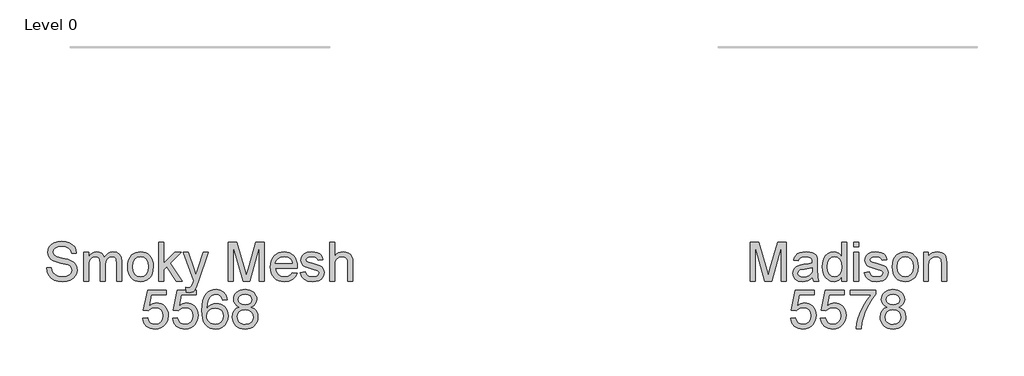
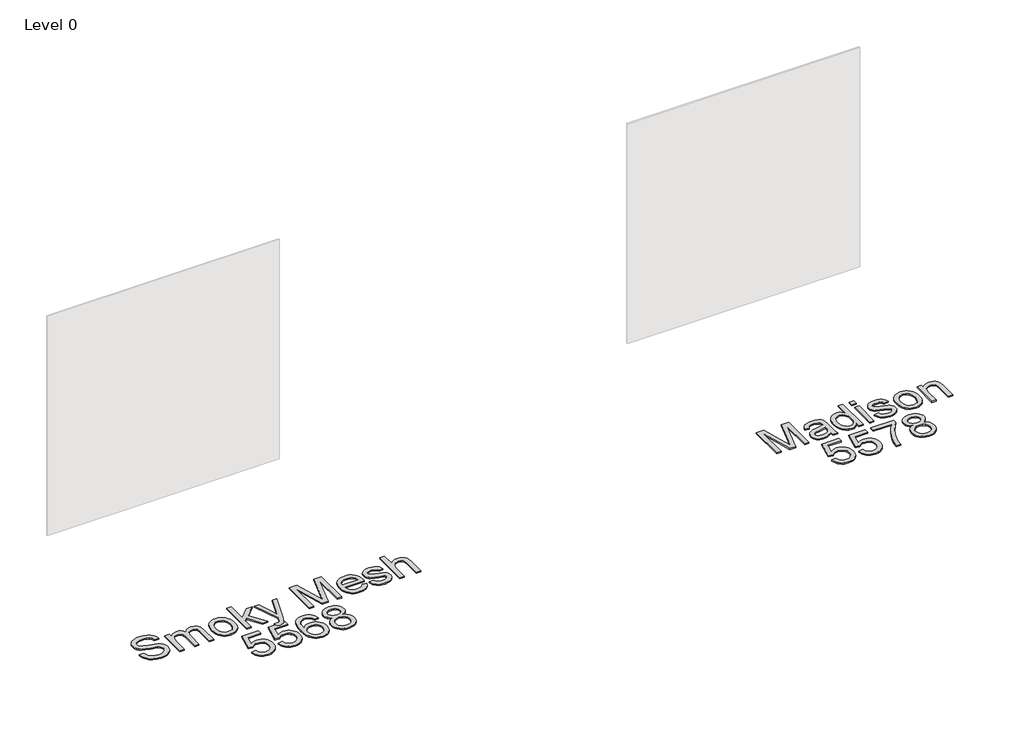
# One storey, part 2 of 8: 2 proxies.
"""IFC4 building model written with IfcOpenShell, lengths in millimetres."""

from ifc_helpers import new_model, si_unit, origin, origin_with_axes, place, context, project, spatial, polyline, outline, extrude, element, save

model = new_model("IFC4")

# Units and contexts
model_context = context("Model", 3, world=origin())
ifc_project = project(units=[si_unit("LENGTHUNIT", "METRE", prefix="MILLI")], contexts=[model_context])

# Site, building, storey
site = spatial("IfcSite", under=ifc_project)
building = spatial("IfcBuilding", under=site)
storey = spatial("IfcBuildingStorey", under=building, Name="Level 0", Elevation=0.0)

# Proxies
placement = place(None, origin())
element("IfcBuildingElementProxy", 1, Name="300mm Arial", ObjectType="300mm Arial", at=placement, inside=storey, context=model_context, shape_type="SweptSolid", body=[
    extrude(outline(polyline([(-10634.9437752, -11899.2649241), (-10597.2726589, -11899.2649241), (-10592.9500454, -11920.1698185), (-10585.132553, -11936.9728286), (-10572.9372649, -11950.308551), (-10555.4812642, -11960.8115819), (-10534.1441085, -11967.6265959), (-10510.3053552, -11969.8982672), (-10489.3176874, -11968.1784189), (-10470.9419817, -11963.0188739), (-10456.051958, -11954.8518936), (-10445.5213359, -11944.1097394), (-10439.2581449, -11931.7764955), (-10437.1704146, -11918.8362463), (-10438.7339131, -11906.2270909), (-10443.4244085, -11895.3285868), (-10452.9525522, -11886.0303694), (-10469.0289954, -11878.222074), (-10523.8802008, -11863.837888), (-10559.8866511, -11854.3189414), (-10582.9252611, -11845.2598472), (-10601.6780458, -11832.5863125), (-10614.9677828, -11817.2272392), (-10622.8864428, -11799.5137211), (-10625.5259961, -11779.7768521), (-10622.2610434, -11757.7131294), (-10612.4661853, -11737.1393289), (-10596.3989391, -11719.7017223), (-10574.3168224, -11707.0465817), (-10547.8109246, -11699.3486509), (-10518.4723355, -11696.782674), (-10486.6873311, -11699.4682126), (-10458.8754523, -11707.5248283), (-10436.0299804, -11720.7869742), (-10419.1441968, -11739.0891034), (-10408.4572248, -11761.2907818), (-10404.2081878, -11786.2515752), (-10441.8793041, -11786.2515752), (-10448.7954856, -11763.7739853), (-10463.2164598, -11747.5503893), (-10485.749232, -11737.7279401), (-10517.0008075, -11734.4537903), (-10548.988147, -11737.6911519), (-10570.932308, -11747.4032365), (-10583.6242369, -11761.695452), (-10587.8548798, -11778.6732061), (-10584.8566415, -11793.1493626), (-10575.8619268, -11804.7928278), (-10554.5983474, -11815.2038882), (-10514.3520572, -11825.8356779), (-10472.8181799, -11835.9340387), (-10447.6918396, -11844.7448125), (-10426.2167282, -11858.4116286), (-10411.2347339, -11875.2790181), (-10402.4331572, -11895.1630399), (-10399.4992983, -11917.8797531), (-10402.8746156, -11941.102304), (-10413.0005675, -11962.9452975), (-10429.4632868, -11981.7440675), (-10451.8489062, -11995.8339479), (-10478.7686712, -12004.6355246), (-10508.8338272, -12007.5693835), (-10545.7415884, -12004.4055984), (-10576.1194442, -11994.9142429), (-10600.3168824, -11979.0585289), (-10618.683391, -11956.8016682), (-10630.4740089, -11929.6887651), (-10634.9437752, -11899.2649241)])), origin_with_axes(), (0.0, 0.0, 1.0), 10.0),
    extrude(outline(polyline([(-10347.7015133, -12002.860494), (-10347.7015133, -11781.5426857), (-10310.030397, -11781.5426857), (-10310.030397, -11817.9630032), (-10298.6996316, -11801.2335695), (-10284.1315046, -11788.1277734), (-10266.8226567, -11779.6572905), (-10247.2697287, -11776.8337961), (-10226.318849, -11779.7124728), (-10209.525036, -11788.3485026), (-10196.9802599, -11802.1716686), (-10188.7764914, -11820.6117536), (-10175.045296, -11801.4588972), (-10159.38272, -11787.7782855), (-10141.7887636, -11779.5699185), (-10122.2634267, -11776.8337961), (-10093.9457101, -11781.3863358), (-10073.0040275, -11795.0439549), (-10060.0637784, -11818.1745354), (-10055.750362, -11851.1459592), (-10055.750362, -12002.860494), (-10093.4214783, -12002.860494), (-10093.4214783, -11867.332767), (-10096.9163572, -11835.8788564), (-10101.8275819, -11827.2060383), (-10109.5714979, -11820.3910244), (-10119.5319029, -11815.9764404), (-10131.0925946, -11814.5049125), (-10151.5008483, -11818.2757029), (-10168.1383115, -11829.5880743), (-10179.2023625, -11849.2145787), (-10182.8903795, -11877.9277684), (-10182.8903795, -12002.860494), (-10220.5614958, -12002.860494), (-10220.5614958, -11863.1389122), (-10222.7411966, -11841.8385447), (-10229.2802991, -11826.6450183), (-10240.7858085, -11817.5399389), (-10257.8647301, -11814.5049125), (-10272.3776748, -11816.5282634), (-10285.7501854, -11822.5983163), (-10296.7866452, -11832.5679184), (-10304.2914379, -11846.2899168), (-10308.5956573, -11865.3278101), (-10310.030397, -11891.2450966), (-10310.030397, -12002.860494), (-10347.7015133, -12002.860494)])), origin_with_axes(), (0.0, 0.0, 1.0), 10.0),
    extrude(outline(polyline([(-10008.6614666, -11892.2015898), (-10006.62432, -11863.5389839), (-10000.5128804, -11838.8403064), (-9990.3271477, -11818.1055575), (-9976.0671218, -11801.334737), (-9961.710527, -11790.6155754), (-9945.86401, -11782.9590314), (-9928.527571, -11778.3651049), (-9909.7012099, -11776.8337961), (-9888.9181764, -11778.698498), (-9870.1263043, -11784.2926036), (-9853.3255934, -11793.6161129), (-9838.5160438, -11806.669026), (-9826.428821, -11823.0098843), (-9817.7950904, -11842.1972296), (-9812.6148521, -11864.2310619), (-9810.888106, -11889.1113811), (-9813.9415265, -11927.1687735), (-9823.1017882, -11956.1394806), (-9838.1021766, -11977.8353213), (-9858.6759772, -11994.0681143), (-9883.1125387, -12004.1940662), (-9909.7012099, -12007.5693835), (-9930.787746, -12005.7115794), (-9949.7543621, -12000.1381672), (-9966.6010582, -11990.8491468), (-9981.3278343, -11977.8445183), (-9993.2862985, -11961.3450108), (-10001.8280585, -11941.5713536), (-10006.9531146, -11918.5235466), (-10008.6614666, -11892.2015898)]), holes=[polyline([(-9970.9903503, -11892.1280134), (-9966.6309486, -11926.2214773), (-9953.5527437, -11950.5108861), (-9933.871057, -11965.0514219), (-9909.7012099, -11969.8982672), (-9885.6417274, -11965.0238308), (-9865.9968289, -11950.4005215), (-9852.9186239, -11925.789216), (-9848.5592223, -11890.950791), (-9852.9462151, -11857.8506085), (-9866.1071935, -11833.8922936), (-9885.7796832, -11819.3517577), (-9909.7012099, -11814.5049125), (-9933.871057, -11819.3333636), (-9953.5527437, -11833.8187172), (-9966.6309486, -11858.0529436), (-9970.9903503, -11892.1280134)])]), origin_with_axes(), (0.0, 0.0, 1.0), 10.0),
    extrude(outline(polyline([(-9768.5081001, -12002.860494), (-9768.5081001, -11701.4915635), (-9730.8369838, -11701.4915635), (-9730.8369838, -11863.4332178), (-9646.3712777, -11781.5426857), (-9594.2791872, -11781.5426857), (-9679.7749629, -11864.4632874), (-9589.5702977, -12002.860494), (-9633.5689843, -12002.860494), (-9706.7775013, -11890.6564855), (-9730.8369838, -11913.9802039), (-9730.8369838, -12002.860494), (-9768.5081001, -12002.860494)])), origin_with_axes(), (0.0, 0.0, 1.0), 10.0),
    extrude(outline(polyline([(-9556.6080709, -12087.6205057), (-9561.3169605, -12051.3473409), (-9542.1870967, -12054.6582789), (-9524.3080317, -12050.5012124), (-9513.3451483, -12038.9129295), (-9503.0444524, -12011.1746271), (-9500.1013965, -12002.0511536), (-9580.1525186, -11781.5426857), (-9540.4212631, -11781.5426857), (-9497.9676809, -11904.4152721), (-9483.1788247, -11953.5643066), (-9468.3899685, -11910.1542312), (-9424.7591638, -11781.5426857), (-9385.322214, -11781.5426857), (-9462.3567038, -12008.1579947), (-9482.3694843, -12057.3070293), (-9492.6149979, -12072.9971964), (-9504.2216748, -12083.8681093), (-9517.7045499, -12090.2140737), (-9533.578658, -12092.3293952), (-9556.6080709, -12087.6205057)])), origin_with_axes(), (0.0, 0.0, 1.0), 10.0),
    extrude(outline(polyline([(-9231.6946928, -12002.860494), (-9231.6946928, -11701.4915635), (-9166.8738852, -11701.4915635), (-9105.2168628, -11913.9066275), (-9092.7824514, -11958.2731962), (-9079.3179704, -11910.2278076), (-9018.6910176, -11701.4915635), (-8953.87021, -11701.4915635), (-8953.87021, -12002.860494), (-8991.5413263, -12002.860494), (-8991.5413263, -11739.1626798), (-9067.2514409, -12002.860494), (-9118.3134619, -12002.860494), (-9194.0235765, -11739.1626798), (-9194.0235765, -12002.860494), (-9231.6946928, -12002.860494)])), origin_with_axes(), (0.0, 0.0, 1.0), 10.0),
    extrude(outline(polyline([(-8737.7027497, -11936.9360404), (-8700.7673973, -11941.64493), (-8714.0755285, -11969.4752029), (-8735.3115167, -11990.2789297), (-8763.9971153, -12003.2467701), (-8799.6540776, -12007.5693835), (-8823.0283799, -12005.7046817), (-8843.8550994, -12000.1105761), (-8862.134236, -11990.7870668), (-8877.8657898, -11977.7341537), (-8890.5163319, -11961.3151204), (-8899.5524334, -11941.8932503), (-8904.9740943, -11919.4685435), (-8906.7813146, -11894.0409998), (-8904.9557002, -11867.7512327), (-8899.478857, -11844.5792656), (-8890.350785, -11824.5250983), (-8877.5714842, -11807.5887309), (-8861.8813171, -11794.133447), (-8844.0206463, -11784.5225298), (-8823.9894716, -11778.7559796), (-8801.7877932, -11776.8337961), (-8780.3011854, -11778.751381), (-8760.8701183, -11784.5041357), (-8743.4945918, -11794.0920602), (-8728.174606, -11807.5151545), (-8715.6689174, -11824.4147337), (-8706.7362827, -11844.4321128), (-8701.3767019, -11867.5672917), (-8699.590175, -11893.8202706), (-8699.8109042, -11903.9738137), (-8869.1101983, -11903.9738137), (-8862.58949, -11932.1719686), (-8847.4419488, -11952.902119), (-8825.5805613, -11965.6492302), (-8798.9183137, -11969.8982672), (-8778.8687449, -11967.9300985), (-8761.9829613, -11962.0255925), (-8748.2609629, -11951.8168672), (-8737.7027497, -11936.9360404)]), holes=[polyline([(-8869.1101983, -11866.3026974), (-8737.2612913, -11866.3026974), (-8742.3564569, -11846.4002814), (-8752.3444531, -11832.1632482), (-8774.3070082, -11818.9194964), (-8801.934946, -11814.5049125), (-8827.3280007, -11818.0273826), (-8848.3248656, -11828.5947929), (-8862.9205838, -11845.0667092), (-8869.1101983, -11866.3026974)])]), origin_with_axes(), (0.0, 0.0, 1.0), 10.0),
    extrude(outline(polyline([(-8676.0457273, -11936.9360404), (-8638.374611, -11932.2271509), (-8632.4333167, -11948.3403823), (-8620.9370044, -11960.1861825), (-8603.8120975, -11967.470246), (-8580.9850197, -11969.8982672), (-8558.4338534, -11967.6725811), (-8542.5781394, -11960.9955229), (-8533.1971485, -11951.3202265), (-8530.0701516, -11940.0998256), (-8533.2155426, -11930.4981055), (-8542.6517158, -11923.1772538), (-8581.4264781, -11912.4350996), (-8638.1538818, -11894.0042116), (-8652.5104766, -11884.7427824), (-8662.91234, -11872.4831149), (-8669.2307133, -11858.0069584), (-8671.3368377, -11842.0960621), (-8669.6445805, -11827.5003439), (-8664.567809, -11814.0266659), (-8656.5663756, -11802.2084568), (-8646.1001329, -11792.5791455), (-8622.151015, -11781.4323211), (-8589.7406112, -11776.8337961), (-8565.2212762, -11778.6824032), (-8543.9025146, -11784.2282242), (-8526.7592136, -11792.9286334), (-8514.7662606, -11804.2410048), (-8506.8200095, -11819.0022698), (-8501.8168143, -11838.0493601), (-8539.4879307, -11842.7582497), (-8544.2428054, -11830.9032524), (-8553.6513875, -11821.972917), (-8567.8056472, -11816.3719136), (-8586.7975552, -11814.5049125), (-8608.4290165, -11816.2891401), (-8622.8499908, -11821.6418232), (-8630.9617888, -11829.3673451), (-8633.6657214, -11838.2700893), (-8629.1775611, -11849.2329728), (-8615.1244689, -11857.5471059), (-8582.6772769, -11865.5669334), (-8527.384613, -11883.2988455), (-8512.7796978, -11891.7785255), (-8501.7064497, -11903.3852025), (-8494.7258889, -11918.1556646), (-8492.3990353, -11936.1267001), (-8495.1305591, -11954.7047408), (-8503.3251305, -11972.1791356), (-8516.6700499, -11987.1795239), (-8534.8526175, -11998.3355454), (-8556.8151726, -12005.260924), (-8581.5000545, -12007.5693835), (-8619.4838705, -12003.1180114), (-8647.2037788, -11989.763895), (-8665.7082432, -11967.654187), (-8676.0457273, -11936.9360404)])), origin_with_axes(), (0.0, 0.0, 1.0), 10.0),
    extrude(outline(polyline([(-8450.0190294, -12002.860494), (-8450.0190294, -11701.4915635), (-8412.3479131, -11701.4915635), (-8412.3479131, -11812.2976205), (-8398.5109516, -11796.7821973), (-8382.9725358, -11785.6997522), (-8365.7326658, -11779.0502852), (-8346.7913416, -11776.8337961), (-8324.0378402, -11779.2526203), (-8304.4849121, -11786.5090926), (-8289.0890506, -11798.0329961), (-8278.8067489, -11813.2541137), (-8273.0126074, -11834.1682051), (-8271.081227, -11862.7710302), (-8271.081227, -12002.860494), (-8308.7523433, -12002.860494), (-8308.7523433, -11866.6705794), (-8311.7505815, -11843.0893435), (-8320.7452963, -11826.9393239), (-8335.2398469, -11817.6135153), (-8354.7375927, -11814.5049125), (-8370.657686, -11816.6018398), (-8385.6028921, -11822.8926219), (-8397.9821212, -11832.7702535), (-8406.2042838, -11845.6277292), (-8410.8120058, -11862.7158479), (-8412.3479131, -11885.2854083), (-8412.3479131, -12002.860494), (-8450.0190294, -12002.860494)])), origin_with_axes(), (0.0, 0.0, 1.0), 10.0),
    extrude(outline(polyline([(-9893.2936729, -12288.7338254), (-9855.6225566, -12284.0249358), (-9848.7063751, -12306.6404815), (-9836.6398456, -12322.8364863), (-9819.4781506, -12332.5761621), (-9797.2764722, -12335.8227207), (-9770.2739337, -12331.3069693), (-9750.040424, -12317.7597148), (-9737.4036774, -12296.7444558), (-9733.1914286, -12269.8246908), (-9737.136963, -12244.4776213), (-9748.9735662, -12225.0902402), (-9768.7932087, -12212.7845875), (-9796.687861, -12208.6827032), (-9814.9623991, -12210.3197781), (-9829.7604523, -12215.2310027), (-9850.9136671, -12232.2271509), (-9888.5847834, -12227.5182614), (-9855.6225566, -12072.1249066), (-9709.6469809, -12072.1249066), (-9709.6469809, -12109.7960229), (-9825.1619274, -12109.7960229), (-9841.2751588, -12192.790201), (-9814.3645908, -12176.4562404), (-9786.1664359, -12171.0115869), (-9767.8206207, -12172.6992456), (-9750.969326, -12177.7622215), (-9735.612552, -12186.2005148), (-9721.7502986, -12198.0141254), (-9710.2746796, -12212.4810848), (-9702.0778089, -12228.8794248), (-9697.1596864, -12247.2091452), (-9695.5203123, -12267.470246), (-9701.4248183, -12305.1413624), (-9708.8054508, -12321.9351754), (-9719.1383364, -12337.3678251), (-9734.7917153, -12353.1729553), (-9753.0570563, -12364.4623341), (-9773.9343596, -12371.2359613), (-9797.423625, -12373.4938371), (-9834.4233566, -12367.6904986), (-9850.1020274, -12360.4363255), (-9863.8999015, -12350.2804832), (-9875.380119, -12337.7288093), (-9884.1058201, -12323.2871418), (-9893.2936729, -12288.7338254)])), origin_with_axes(), (0.0, 0.0, 1.0), 10.0),
    extrude(outline(polyline([(-9662.5580855, -12288.7338254), (-9624.8869692, -12284.0249358), (-9617.9707877, -12306.6404815), (-9605.9042583, -12322.8364863), (-9588.7425632, -12332.5761621), (-9566.5408848, -12335.8227207), (-9539.5383463, -12331.3069693), (-9519.3048366, -12317.7597148), (-9506.6680901, -12296.7444558), (-9502.4558412, -12269.8246908), (-9506.4013756, -12244.4776213), (-9518.2379788, -12225.0902402), (-9538.0576213, -12212.7845875), (-9565.9522736, -12208.6827032), (-9584.2268117, -12210.3197781), (-9599.024865, -12215.2310027), (-9620.1780797, -12232.2271509), (-9657.849196, -12227.5182614), (-9624.8869692, -12072.1249066), (-9478.9113935, -12072.1249066), (-9478.9113935, -12109.7960229), (-9594.42634, -12109.7960229), (-9610.5395714, -12192.790201), (-9583.6290035, -12176.4562404), (-9555.4308485, -12171.0115869), (-9537.0850333, -12172.6992456), (-9520.2337386, -12177.7622215), (-9504.8769646, -12186.2005148), (-9491.0147112, -12198.0141254), (-9479.5390922, -12212.4810848), (-9471.3422215, -12228.8794248), (-9466.4240991, -12247.2091452), (-9464.7847249, -12267.470246), (-9470.6892309, -12305.1413624), (-9478.0698635, -12321.9351754), (-9488.402749, -12337.3678251), (-9504.0561279, -12353.1729553), (-9522.321469, -12364.4623341), (-9543.1987722, -12371.2359613), (-9566.6880376, -12373.4938371), (-9603.6877693, -12367.6904986), (-9619.36644, -12360.4363255), (-9633.1643141, -12350.2804832), (-9644.6445316, -12337.7288093), (-9653.3702327, -12323.2871418), (-9662.5580855, -12288.7338254)])), origin_with_axes(), (0.0, 0.0, 1.0), 10.0),
    extrude(outline(polyline([(-9238.7580271, -12147.4671392), (-9276.4291434, -12152.1760288), (-9282.4991963, -12133.5060175), (-9290.7029648, -12120.7589064), (-9307.7910835, -12109.0050766), (-9328.4476575, -12105.0871334), (-9345.9588405, -12107.3680017), (-9362.4399539, -12114.2106069), (-9376.5942136, -12128.622384), (-9388.1549053, -12148.4604206), (-9395.9632007, -12176.5206198), (-9398.8602714, -12215.5988847), (-9383.7495184, -12197.9681401), (-9365.6405272, -12185.5429257), (-9345.5449732, -12178.1760888), (-9324.474532, -12175.7204764), (-9306.3747378, -12177.3989381), (-9289.6728952, -12182.4343229), (-9274.3690042, -12190.8266309), (-9260.4630648, -12202.5758621), (-9248.9069716, -12216.9830407), (-9240.6526194, -12233.349191), (-9235.700008, -12251.6743129), (-9234.0491375, -12271.9584064), (-9237.1577404, -12298.9333537), (-9246.483549, -12323.9401323), (-9261.2540111, -12345.1485293), (-9280.6965745, -12360.7283318), (-9303.9283225, -12370.3024607), (-9330.0663383, -12373.4938371), (-9352.5232348, -12371.3785156), (-9372.8050291, -12365.0325512), (-9390.911721, -12354.4559438), (-9406.8433107, -12339.6486935), (-9419.8318444, -12319.9854009), (-9429.1093684, -12294.8406665), (-9434.6758829, -12264.2144904), (-9436.5313877, -12228.1068726), (-9434.4712485, -12187.6260575), (-9428.290831, -12153.0773396), (-9417.9901351, -12124.4607189), (-9403.5691609, -12101.7761954), (-9387.9387747, -12086.7436174), (-9369.8159879, -12076.0060617), (-9349.2008006, -12069.5635282), (-9326.0932127, -12067.4160171), (-9293.0390155, -12072.7319119), (-9266.5699059, -12088.6795964), (-9248.0286534, -12114.0082718), (-9238.7580271, -12147.4671392)]), holes=[polyline([(-9398.8602714, -12271.3697952), (-9396.6805706, -12288.0624407), (-9390.1414681, -12304.0009282), (-9379.987925, -12317.7045325), (-9366.9649024, -12327.6925287), (-9351.2471442, -12333.7901727), (-9333.0093942, -12335.8227207), (-9308.1497684, -12331.6104719), (-9288.6060374, -12318.9737254), (-9275.9416997, -12299.1080976), (-9271.7202539, -12273.2092052), (-9275.8865174, -12248.3495793), (-9288.3853082, -12229.3944595), (-9308.260133, -12217.3923095), (-9334.5544986, -12213.3915928), (-9359.3773363, -12217.3923095), (-9380.1350778, -12229.3944595), (-9394.178973, -12247.8897269), (-9398.8602714, -12271.3697952)])]), origin_with_axes(), (0.0, 0.0, 1.0), 10.0),
    extrude(outline(polyline([(-9146.1989171, -12202.7965913), (-9166.3680475, -12192.8637774), (-9180.5223072, -12179.3992964), (-9188.8824256, -12162.6790597), (-9191.6691317, -12142.9789789), (-9190.1516185, -12127.6153071), (-9185.5990788, -12113.5300252), (-9178.0115126, -12100.7231332), (-9167.38892, -12089.1946312), (-9154.2417372, -12079.6664875), (-9139.0804005, -12072.8606706), (-9102.7152653, -12067.4160171), (-9066.1294008, -12072.9894293), (-9050.8025172, -12079.9561946), (-9037.4529993, -12089.709666), (-9026.6372687, -12101.4634957), (-9018.9117468, -12114.4313361), (-9014.2764336, -12128.613187), (-9012.7313292, -12144.0090485), (-9015.4812472, -12163.0745329), (-9023.7310009, -12179.509661), (-9037.572561, -12192.8913686), (-9057.0978979, -12202.7965913), (-9033.9121351, -12214.7435591), (-9017.0355486, -12232.3375155), (-9006.7440498, -12254.732332), (-9003.3135502, -12281.0818799), (-9005.0150044, -12299.8714528), (-9010.1193671, -12317.0975272), (-9018.6266382, -12332.7601031), (-9030.5368178, -12346.8591806), (-9045.2245065, -12358.5118428), (-9062.0643048, -12366.8351729), (-9081.0562128, -12371.829171), (-9102.2002305, -12373.4938371), (-9123.3442481, -12371.8222732), (-9142.3361561, -12366.8075818), (-9159.1759545, -12358.4497627), (-9173.8636431, -12346.748816), (-9185.7738227, -12332.5508703), (-9194.2810939, -12316.702054), (-9199.3854566, -12299.2023674), (-9201.0869108, -12280.0518103), (-9197.5184554, -12252.6813898), (-9186.8130894, -12230.1670117), (-9169.5226356, -12213.2812282), (-9146.1989171, -12202.7965913)]), holes=[polyline([(-9153.9980154, -12144.0826249), (-9150.6594863, -12160.52695), (-9140.643899, -12173.6603373), (-9124.245559, -12182.268776), (-9101.7587721, -12185.1382555), (-9079.796217, -12182.2871701), (-9063.6461974, -12173.7339137), (-9053.7133835, -12161.0419848), (-9050.4024456, -12145.774882), (-9053.8237481, -12129.9283651), (-9064.0876558, -12116.822569), (-9080.4584046, -12108.0209923), (-9102.2002305, -12105.0871334), (-9124.0800121, -12107.9566129), (-9140.4231698, -12116.5650516), (-9150.604304, -12129.1834041), (-9153.9980154, -12144.0826249)]), polyline([(-9163.4157945, -12278.7274351), (-9157.1250124, -12307.0911369), (-9148.4154061, -12319.2588339), (-9134.8681516, -12328.317928), (-9118.6445557, -12333.9465226), (-9101.9059249, -12335.8227207), (-9076.2645498, -12331.8771864), (-9057.0243215, -12320.0405832), (-9044.9945802, -12302.1155329), (-9040.9846665, -12279.9046575), (-9045.1233389, -12257.316703), (-9057.5393563, -12238.9961796), (-9077.221043, -12226.8560738), (-9103.1567237, -12222.8093718), (-9128.4394138, -12226.8008915), (-9147.4865041, -12238.7754504), (-9159.4334719, -12256.7464859), (-9163.4157945, -12278.7274351)])]), origin_with_axes(), (0.0, 0.0, 1.0), 10.0),
])
element("IfcBuildingElementProxy", 2, Name="300mm Arial", ObjectType="300mm Arial", at=placement, inside=storey, context=model_context, shape_type="SweptSolid", body=[
    extrude(outline(polyline([(-5204.0803824, -12002.860494), (-5204.0803824, -11701.4915635), (-5139.2595749, -11701.4915635), (-5077.6025525, -11913.9066275), (-5065.1681411, -11958.2731962), (-5051.70366, -11910.2278076), (-4991.0767072, -11701.4915635), (-4926.2558997, -11701.4915635), (-4926.2558997, -12002.860494), (-4963.927016, -12002.860494), (-4963.927016, -11739.1626798), (-5039.6371306, -12002.860494), (-5090.6991515, -12002.860494), (-5166.4092661, -11739.1626798), (-5166.4092661, -12002.860494), (-5204.0803824, -12002.860494)])), origin_with_axes(), (0.0, 0.0, 1.0), 10.0),
    extrude(outline(polyline([(-4723.7736495, -11974.6071568), (-4741.7722761, -11990.0398064), (-4760.3043316, -12000.1381672), (-4779.7928803, -12005.7115794), (-4800.6609865, -12007.5693835), (-4832.1424883, -12003.0996173), (-4855.3650392, -11989.6903186), (-4869.6848459, -11969.3280501), (-4874.4581148, -11943.9993748), (-4872.655493, -11928.3827841), (-4867.2476276, -11914.2009331), (-4858.9059034, -11902.0608273), (-4848.3017049, -11892.5694718), (-4821.9245658, -11880.2086368), (-4789.3302211, -11874.5432541), (-4750.8129762, -11868.5835657), (-4723.9943787, -11861.5938078), (-4723.7736495, -11853.2060983), (-4726.3672176, -11836.3938912), (-4734.1479218, -11825.3942195), (-4751.5487402, -11817.2272392), (-4775.7921636, -11814.5049125), (-4798.2329654, -11816.3167313), (-4813.9047383, -11821.7521878), (-4824.5917103, -11831.8045633), (-4832.0781089, -11847.4671392), (-4869.7492252, -11842.7582497), (-4863.2101227, -11822.156858), (-4853.4520528, -11805.9700502), (-4839.5645075, -11793.590821), (-4820.6369789, -11784.4121652), (-4797.4880043, -11778.7283884), (-4770.9361213, -11776.8337961), (-4745.4694902, -11778.5076592), (-4725.2819657, -11783.5292485), (-4710.0608482, -11791.0800264), (-4699.4934378, -11800.3414556), (-4692.4852858, -11811.7917827), (-4687.9419432, -11825.9092543), (-4686.1025332, -11858.8714811), (-4686.1025332, -11905.7396473), (-4684.1895468, -11971.1858542), (-4676.6847541, -12002.860494), (-4714.3558705, -12002.860494), (-4723.7736495, -11974.6071568)]), holes=[polyline([(-4723.7736495, -11899.2649241), (-4784.5477551, -11910.8164188), (-4816.9581589, -11916.9232599), (-4831.6366505, -11926.8560738), (-4836.7869984, -11941.3506244), (-4833.9818982, -11952.5526311), (-4825.5665976, -11961.7312869), (-4811.7250375, -11967.8565221), (-4792.641159, -11969.8982672), (-4772.4076493, -11967.64499), (-4754.5285843, -11960.8851583), (-4740.0340337, -11950.9247533), (-4729.954067, -11939.069756), (-4725.4843008, -11926.8560738), (-4723.9943787, -11909.933502), (-4723.7736495, -11899.2649241)])]), origin_with_axes(), (0.0, 0.0, 1.0), 10.0),
    extrude(outline(polyline([(-4497.7469517, -12002.860494), (-4497.7469517, -11967.3230932), (-4509.0179363, -11984.9308452), (-4522.6709569, -11997.507811), (-4538.7060133, -12005.0539904), (-4557.1231057, -12007.5693835), (-4581.4768938, -12003.9273518), (-4603.7705427, -11993.0012565), (-4622.6428891, -11975.5544529), (-4636.7327695, -11952.350296), (-4645.5067551, -11924.3268851), (-4648.4314169, -11892.422319), (-4645.7366813, -11860.9132261), (-4637.6524745, -11832.4575538), (-4624.1879934, -11808.6739828), (-4605.3524353, -11791.181194), (-4582.5713427, -11780.4206456), (-4557.2702585, -11776.8337961), (-4538.8393706, -11779.3997731), (-4522.5421982, -11787.0977038), (-4508.7282292, -11798.8975188), (-4497.7469517, -11813.7691485), (-4497.7469517, -11701.4915635), (-4460.0758354, -11701.4915635), (-4460.0758354, -12002.860494), (-4497.7469517, -12002.860494)]), holes=[polyline([(-4610.7603006, -11892.2751662), (-4606.5112636, -11926.350236), (-4593.7641524, -11950.5844625), (-4575.241294, -11965.069816), (-4553.665015, -11969.8982672), (-4532.097933, -11965.2905452), (-4514.0441241, -11951.4673793), (-4501.8212448, -11928.1712519), (-4497.7469517, -11895.1446458), (-4501.8948212, -11859.037028), (-4514.3384297, -11834.0026582), (-4532.8520911, -11819.3793489), (-4555.2101193, -11814.5049125), (-4577.0071276, -11819.1862108), (-4594.8677984, -11833.230106), (-4606.7871751, -11857.3539678), (-4610.7603006, -11892.2751662)])]), origin_with_axes(), (0.0, 0.0, 1.0), 10.0),
    extrude(outline(polyline([(-4403.5691609, -11739.1626798), (-4403.5691609, -11701.4915635), (-4365.8980446, -11701.4915635), (-4365.8980446, -11739.1626798), (-4403.5691609, -11739.1626798)])), origin_with_axes(), (0.0, 0.0, 1.0), 10.0),
    extrude(outline(polyline([(-4403.5691609, -12002.860494), (-4403.5691609, -11781.5426857), (-4365.8980446, -11781.5426857), (-4365.8980446, -12002.860494), (-4403.5691609, -12002.860494)])), origin_with_axes(), (0.0, 0.0, 1.0), 10.0),
    extrude(outline(polyline([(-4323.5180388, -11936.9360404), (-4285.8469225, -11932.2271509), (-4279.9056282, -11948.3403823), (-4268.4093159, -11960.1861825), (-4251.284409, -11967.470246), (-4228.4573312, -11969.8982672), (-4205.9061649, -11967.6725811), (-4190.0504509, -11960.9955229), (-4180.66946, -11951.3202265), (-4177.5424631, -11940.0998256), (-4180.6878541, -11930.4981055), (-4190.1240273, -11923.1772538), (-4228.8987896, -11912.4350996), (-4285.6261933, -11894.0042116), (-4299.9827881, -11884.7427824), (-4310.3846515, -11872.4831149), (-4316.7030248, -11858.0069584), (-4318.8091492, -11842.0960621), (-4317.1168921, -11827.5003439), (-4312.0401205, -11814.0266659), (-4304.0386871, -11802.2084568), (-4293.5724444, -11792.5791455), (-4269.6233265, -11781.4323211), (-4237.2129227, -11776.8337961), (-4212.6935877, -11778.6824032), (-4191.3748261, -11784.2282242), (-4174.2315251, -11792.9286334), (-4162.2385721, -11804.2410048), (-4154.292321, -11819.0022698), (-4149.2891259, -11838.0493601), (-4186.9602422, -11842.7582497), (-4191.715117, -11830.9032524), (-4201.123699, -11821.972917), (-4215.2779587, -11816.3719136), (-4234.2698667, -11814.5049125), (-4255.9013281, -11816.2891401), (-4270.3223023, -11821.6418232), (-4278.4341003, -11829.3673451), (-4281.1380329, -11838.2700893), (-4276.6498726, -11849.2329728), (-4262.5967804, -11857.5471059), (-4230.1495884, -11865.5669334), (-4174.8569245, -11883.2988455), (-4160.2520093, -11891.7785255), (-4149.1787613, -11903.3852025), (-4142.1982004, -11918.1556646), (-4139.8713468, -11936.1267001), (-4142.6028706, -11954.7047408), (-4150.797442, -11972.1791356), (-4164.1423614, -11987.1795239), (-4182.324929, -11998.3355454), (-4204.2874841, -12005.260924), (-4228.972366, -12007.5693835), (-4266.956182, -12003.1180114), (-4294.6760904, -11989.763895), (-4313.1805547, -11967.654187), (-4323.5180388, -11936.9360404)])), origin_with_axes(), (0.0, 0.0, 1.0), 10.0),
    extrude(outline(polyline([(-4106.90912, -11892.2015898), (-4104.8719735, -11863.5389839), (-4098.7605338, -11838.8403064), (-4088.5748011, -11818.1055575), (-4074.3147752, -11801.334737), (-4059.9581804, -11790.6155754), (-4044.1116634, -11782.9590314), (-4026.7752244, -11778.3651049), (-4007.9488633, -11776.8337961), (-3987.1658298, -11778.698498), (-3968.3739577, -11784.2926036), (-3951.5732468, -11793.6161129), (-3936.7636972, -11806.669026), (-3924.6764744, -11823.0098843), (-3916.0427439, -11842.1972296), (-3910.8625055, -11864.2310619), (-3909.1357594, -11889.1113811), (-3912.18918, -11927.1687735), (-3921.3494416, -11956.1394806), (-3936.34983, -11977.8353213), (-3956.9236306, -11994.0681143), (-3981.3601921, -12004.1940662), (-4007.9488633, -12007.5693835), (-4029.0353994, -12005.7115794), (-4048.0020155, -12000.1381672), (-4064.8487117, -11990.8491468), (-4079.5754878, -11977.8445183), (-4091.5339519, -11961.3450108), (-4100.075712, -11941.5713536), (-4105.200768, -11918.5235466), (-4106.90912, -11892.2015898)]), holes=[polyline([(-4069.2380037, -11892.1280134), (-4064.8786021, -11926.2214773), (-4051.8003971, -11950.5108861), (-4032.1187104, -11965.0514219), (-4007.9488633, -11969.8982672), (-3983.8893808, -11965.0238308), (-3964.2444823, -11950.4005215), (-3951.1662774, -11925.789216), (-3946.8068757, -11890.950791), (-3951.1938685, -11857.8506085), (-3964.3548469, -11833.8922936), (-3984.0273366, -11819.3517577), (-4007.9488633, -11814.5049125), (-4032.1187104, -11819.3333636), (-4051.8003971, -11833.8187172), (-4064.8786021, -11858.0529436), (-4069.2380037, -11892.1280134)])]), origin_with_axes(), (0.0, 0.0, 1.0), 10.0),
    extrude(outline(polyline([(-3866.7557536, -12002.860494), (-3866.7557536, -11781.5426857), (-3829.0846373, -11781.5426857), (-3829.0846373, -11812.4447733), (-3815.9972353, -11796.8649708), (-3800.279477, -11785.7365404), (-3781.9313625, -11779.0594822), (-3760.9528917, -11776.8337961), (-3742.384048, -11778.6272209), (-3725.3787028, -11784.0074951), (-3711.1968519, -11792.303234), (-3701.0984911, -11802.8430532), (-3689.8045139, -11830.5445674), (-3687.8179511, -11866.964885), (-3687.8179511, -12002.860494), (-3725.4890674, -12002.860494), (-3725.4890674, -11872.0416565), (-3729.830075, -11838.7115477), (-3735.8357485, -11828.7879309), (-3745.1707542, -11821.0900002), (-3757.136116, -11816.1511844), (-3771.0328584, -11814.5049125), (-3793.0965811, -11818.2021265), (-3811.9045481, -11829.2937687), (-3819.4208371, -11838.3482643), (-3824.789615, -11850.7228949), (-3829.0846373, -11885.4325611), (-3829.0846373, -12002.860494), (-3866.7557536, -12002.860494)])), origin_with_axes(), (0.0, 0.0, 1.0), 10.0),
    extrude(outline(polyline([(-4893.2936729, -12288.7338254), (-4855.6225566, -12284.0249358), (-4848.7063751, -12306.6404815), (-4836.6398456, -12322.8364863), (-4819.4781506, -12332.5761621), (-4797.2764722, -12335.8227207), (-4770.2739337, -12331.3069693), (-4750.040424, -12317.7597148), (-4737.4036774, -12296.7444558), (-4733.1914286, -12269.8246908), (-4737.136963, -12244.4776213), (-4748.9735662, -12225.0902402), (-4768.7932087, -12212.7845875), (-4796.687861, -12208.6827032), (-4814.9623991, -12210.3197781), (-4829.7604523, -12215.2310027), (-4850.9136671, -12232.2271509), (-4888.5847834, -12227.5182614), (-4855.6225566, -12072.1249066), (-4709.6469809, -12072.1249066), (-4709.6469809, -12109.7960229), (-4825.1619274, -12109.7960229), (-4841.2751588, -12192.790201), (-4814.3645908, -12176.4562404), (-4786.1664359, -12171.0115869), (-4767.8206207, -12172.6992456), (-4750.969326, -12177.7622215), (-4735.612552, -12186.2005148), (-4721.7502986, -12198.0141254), (-4710.2746796, -12212.4810848), (-4702.0778089, -12228.8794248), (-4697.1596864, -12247.2091452), (-4695.5203123, -12267.470246), (-4701.4248183, -12305.1413624), (-4708.8054508, -12321.9351754), (-4719.1383364, -12337.3678251), (-4734.7917153, -12353.1729553), (-4753.0570563, -12364.4623341), (-4773.9343596, -12371.2359613), (-4797.423625, -12373.4938371), (-4834.4233566, -12367.6904986), (-4850.1020274, -12360.4363255), (-4863.8999015, -12350.2804832), (-4875.380119, -12337.7288093), (-4884.1058201, -12323.2871418), (-4893.2936729, -12288.7338254)])), origin_with_axes(), (0.0, 0.0, 1.0), 10.0),
    extrude(outline(polyline([(-4662.5580855, -12288.7338254), (-4624.8869692, -12284.0249358), (-4617.9707877, -12306.6404815), (-4605.9042583, -12322.8364863), (-4588.7425632, -12332.5761621), (-4566.5408848, -12335.8227207), (-4539.5383463, -12331.3069693), (-4519.3048366, -12317.7597148), (-4506.6680901, -12296.7444558), (-4502.4558412, -12269.8246908), (-4506.4013756, -12244.4776213), (-4518.2379788, -12225.0902402), (-4538.0576213, -12212.7845875), (-4565.9522736, -12208.6827032), (-4584.2268117, -12210.3197781), (-4599.024865, -12215.2310027), (-4620.1780797, -12232.2271509), (-4657.849196, -12227.5182614), (-4624.8869692, -12072.1249066), (-4478.9113935, -12072.1249066), (-4478.9113935, -12109.7960229), (-4594.42634, -12109.7960229), (-4610.5395714, -12192.790201), (-4583.6290035, -12176.4562404), (-4555.4308485, -12171.0115869), (-4537.0850333, -12172.6992456), (-4520.2337386, -12177.7622215), (-4504.8769646, -12186.2005148), (-4491.0147112, -12198.0141254), (-4479.5390922, -12212.4810848), (-4471.3422215, -12228.8794248), (-4466.4240991, -12247.2091452), (-4464.7847249, -12267.470246), (-4470.6892309, -12305.1413624), (-4478.0698635, -12321.9351754), (-4488.402749, -12337.3678251), (-4504.0561279, -12353.1729553), (-4522.321469, -12364.4623341), (-4543.1987722, -12371.2359613), (-4566.6880376, -12373.4938371), (-4603.6877693, -12367.6904986), (-4619.36644, -12360.4363255), (-4633.1643141, -12350.2804832), (-4644.6445316, -12337.7288093), (-4653.3702327, -12323.2871418), (-4662.5580855, -12288.7338254)])), origin_with_axes(), (0.0, 0.0, 1.0), 10.0),
    extrude(outline(polyline([(-4431.8224982, -12109.7960229), (-4431.8224982, -12072.1249066), (-4234.0491375, -12072.1249066), (-4234.0491375, -12102.5855358), (-4262.2380954, -12138.2608923), (-4290.1511418, -12183.6299393), (-4314.7716443, -12234.5540045), (-4333.0829706, -12286.8944154), (-4342.0592913, -12326.0554538), (-4347.0624865, -12368.7849475), (-4384.7336028, -12368.7849475), (-4380.6593097, -12329.9550029), (-4369.7608056, -12283.8042066), (-4352.332396, -12234.8850983), (-4328.6683867, -12187.7502177), (-4301.0404489, -12145.1402856), (-4271.7202539, -12109.7960229), (-4431.8224982, -12109.7960229)])), origin_with_axes(), (0.0, 0.0, 1.0), 10.0),
    extrude(outline(polyline([(-4146.1989171, -12202.7965913), (-4166.3680475, -12192.8637774), (-4180.5223072, -12179.3992964), (-4188.8824256, -12162.6790597), (-4191.6691317, -12142.9789789), (-4190.1516185, -12127.6153071), (-4185.5990788, -12113.5300252), (-4178.0115126, -12100.7231332), (-4167.38892, -12089.1946312), (-4154.2417372, -12079.6664875), (-4139.0804005, -12072.8606706), (-4102.7152653, -12067.4160171), (-4066.1294008, -12072.9894293), (-4050.8025172, -12079.9561946), (-4037.4529993, -12089.709666), (-4026.6372687, -12101.4634957), (-4018.9117468, -12114.4313361), (-4014.2764336, -12128.613187), (-4012.7313292, -12144.0090485), (-4015.4812472, -12163.0745329), (-4023.7310009, -12179.509661), (-4037.572561, -12192.8913686), (-4057.0978979, -12202.7965913), (-4033.9121351, -12214.7435591), (-4017.0355486, -12232.3375155), (-4006.7440498, -12254.732332), (-4003.3135502, -12281.0818799), (-4005.0150044, -12299.8714528), (-4010.1193671, -12317.0975272), (-4018.6266382, -12332.7601031), (-4030.5368178, -12346.8591806), (-4045.2245065, -12358.5118428), (-4062.0643048, -12366.8351729), (-4081.0562128, -12371.829171), (-4102.2002305, -12373.4938371), (-4123.3442481, -12371.8222732), (-4142.3361561, -12366.8075818), (-4159.1759545, -12358.4497627), (-4173.8636431, -12346.748816), (-4185.7738227, -12332.5508703), (-4194.2810939, -12316.702054), (-4199.3854566, -12299.2023674), (-4201.0869108, -12280.0518103), (-4197.5184554, -12252.6813898), (-4186.8130894, -12230.1670117), (-4169.5226356, -12213.2812282), (-4146.1989171, -12202.7965913)]), holes=[polyline([(-4153.9980154, -12144.0826249), (-4150.6594863, -12160.52695), (-4140.643899, -12173.6603373), (-4124.245559, -12182.268776), (-4101.7587721, -12185.1382555), (-4079.796217, -12182.2871701), (-4063.6461974, -12173.7339137), (-4053.7133835, -12161.0419848), (-4050.4024456, -12145.774882), (-4053.8237481, -12129.9283651), (-4064.0876558, -12116.822569), (-4080.4584046, -12108.0209923), (-4102.2002305, -12105.0871334), (-4124.0800121, -12107.9566129), (-4140.4231698, -12116.5650516), (-4150.604304, -12129.1834041), (-4153.9980154, -12144.0826249)]), polyline([(-4163.4157945, -12278.7274351), (-4157.1250124, -12307.0911369), (-4148.4154061, -12319.2588339), (-4134.8681516, -12328.317928), (-4118.6445557, -12333.9465226), (-4101.9059249, -12335.8227207), (-4076.2645498, -12331.8771864), (-4057.0243215, -12320.0405832), (-4044.9945802, -12302.1155329), (-4040.9846665, -12279.9046575), (-4045.1233389, -12257.316703), (-4057.5393563, -12238.9961796), (-4077.221043, -12226.8560738), (-4103.1567237, -12222.8093718), (-4128.4394138, -12226.8008915), (-4147.4865041, -12238.7754504), (-4159.4334719, -12256.7464859), (-4163.4157945, -12278.7274351)])]), origin_with_axes(), (0.0, 0.0, 1.0), 10.0),
])

save(model, "model.ifc")
